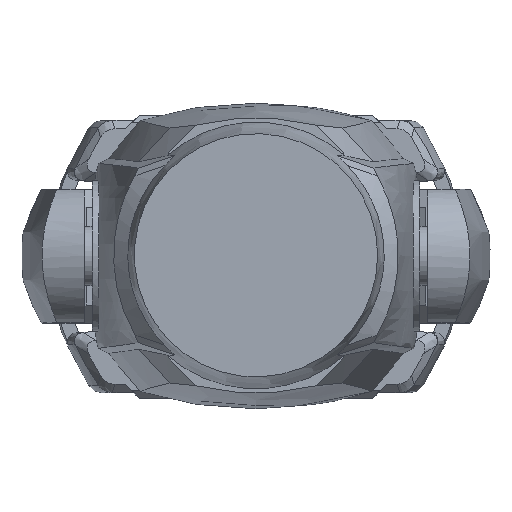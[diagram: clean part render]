
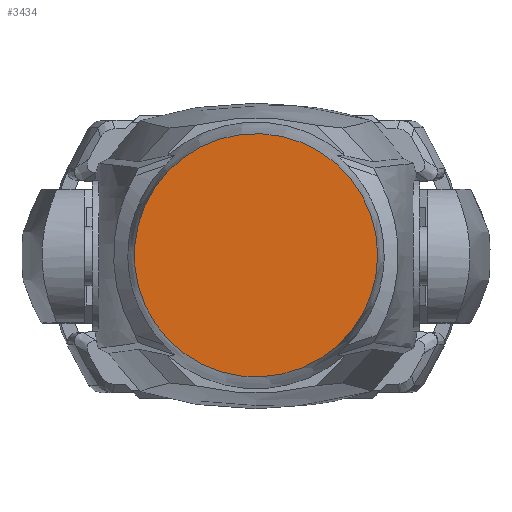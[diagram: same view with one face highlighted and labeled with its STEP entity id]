
A CAD part, top view. The second image highlights one B-rep face of the part: STEP entity #3434.
In plain terms, the highlighted planar face has unit normal (0, 0, 1).
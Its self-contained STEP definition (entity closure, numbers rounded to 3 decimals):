
#117=CIRCLE('',#3641,94.314);
#575=PLANE('',#3640);
#1436=ORIENTED_EDGE('',*,*,#2088,.T.);
#2088=EDGE_CURVE('',#2479,#2479,#117,.T.);
#2479=VERTEX_POINT('',#7725);
#2997=EDGE_LOOP('',(#1436));
#3204=FACE_BOUND('',#2997,.T.);
#3434=ADVANCED_FACE('',(#3204),#575,.F.);
#3640=AXIS2_PLACEMENT_3D('',#7723,#4098,#4099);
#3641=AXIS2_PLACEMENT_3D('',#7724,#4100,#4101);
#4098=DIRECTION('',(0.,0.,-1.));
#4099=DIRECTION('',(-1.,0.,0.));
#4100=DIRECTION('',(0.,0.,1.));
#4101=DIRECTION('',(1.,0.,0.));
#7723=CARTESIAN_POINT('',(94.314,0.,275.2));
#7724=CARTESIAN_POINT('',(0.,0.,275.2));
#7725=CARTESIAN_POINT('',(94.314,0.,275.2));
